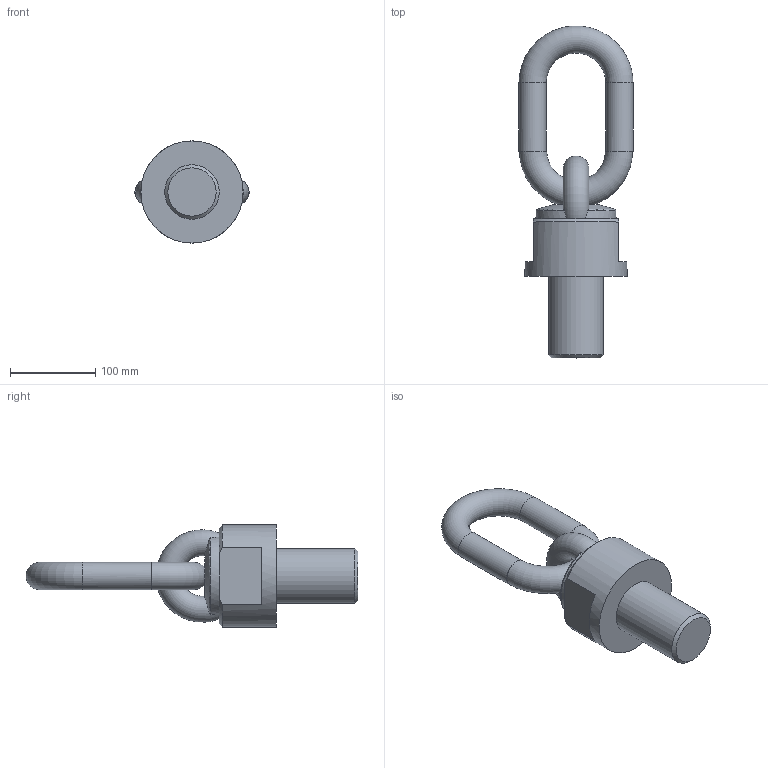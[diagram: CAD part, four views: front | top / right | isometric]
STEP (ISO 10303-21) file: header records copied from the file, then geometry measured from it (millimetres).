
FILE_DESCRIPTION( ( 'STEP AP203' ), '1' );
FILE_NAME( 'p:/temp/worker_18/temp/app_55_0201906261457539160749310e898ce_000000_00_00_000000/format_0/C800X2006496.stp', '2019-06-26T12:57:54', ( '' ), ( '' ), ' ', 'PARTsolutions', ' ' );
FILE_SCHEMA( ( 'CONFIG_CONTROL_DESIGN' ) );
Length unit declared in the file: millimetre
Products named in the file (1): _C800X2006496
Bounding box: 134 x 389.84 x 120 mm (x, y, z)
Volume: 1606134.9 mm3; surface area: 127067.4 mm2
Topology: 1 solids, 1 shells, 28 faces, 70 edges, 44 vertices
Faces by surface type: plane 12, cylinder 6, torus 5, cone 5
Full cylindrical faces by diameter (mm): 32 x2, 64 x1, 120 x1
Entity records: 1259 total; most frequent: CARTESIAN_POINT 609, DIRECTION 122, ORIENTED_EDGE 116, EDGE_CURVE 58, AXIS2_PLACEMENT_3D 57, EDGE_LOOP 42, VERTEX_POINT 41, FACE_OUTER_BOUND 35
